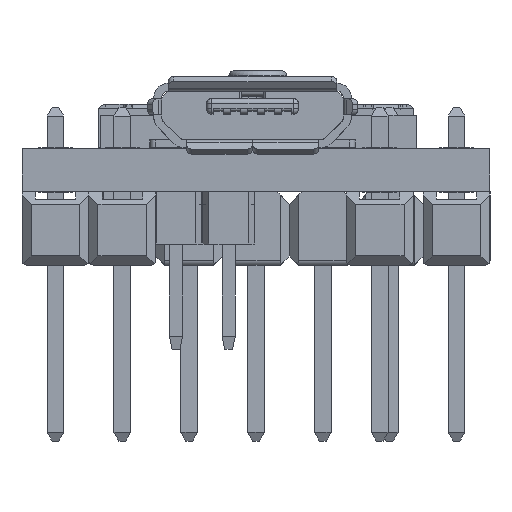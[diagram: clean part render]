
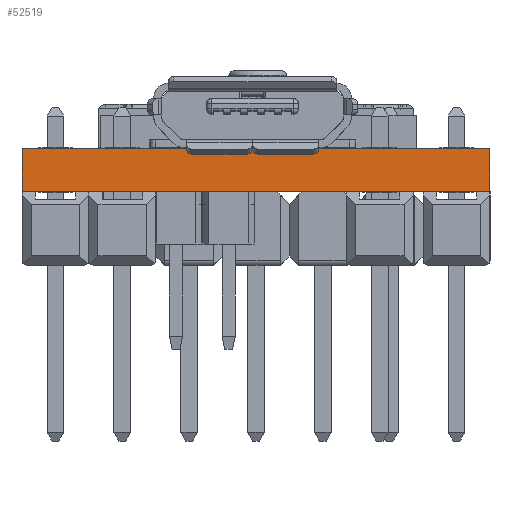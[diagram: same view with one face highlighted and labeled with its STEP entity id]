
A CAD part, left-side view. The second image highlights one B-rep face of the part: STEP entity #52519.
In plain terms, the highlighted planar face has unit normal (-1, 0, 0).
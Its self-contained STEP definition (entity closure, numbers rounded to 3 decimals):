
#3988=PLANE('',#57792);
#6890=FACE_OUTER_BOUND('',#10248,.T.);
#10248=EDGE_LOOP('',(#48248,#48249,#48250,#48251));
#15525=LINE('',#88970,#20655);
#15530=LINE('',#89100,#20660);
#15531=LINE('',#89103,#20661);
#15532=LINE('',#89104,#20662);
#20655=VECTOR('',#72282,10.);
#20660=VECTOR('',#72411,10.);
#20661=VECTOR('',#72414,10.);
#20662=VECTOR('',#72415,10.);
#27233=VERTEX_POINT('',#88963);
#27236=VERTEX_POINT('',#88968);
#27299=VERTEX_POINT('',#89098);
#27300=VERTEX_POINT('',#89102);
#34292=EDGE_CURVE('',#27236,#27233,#15525,.T.);
#34357=EDGE_CURVE('',#27236,#27299,#15530,.T.);
#34358=EDGE_CURVE('',#27300,#27299,#15531,.T.);
#34359=EDGE_CURVE('',#27233,#27300,#15532,.T.);
#48248=ORIENTED_EDGE('',*,*,#34357,.T.);
#48249=ORIENTED_EDGE('',*,*,#34358,.F.);
#48250=ORIENTED_EDGE('',*,*,#34359,.F.);
#48251=ORIENTED_EDGE('',*,*,#34292,.F.);
#52519=ADVANCED_FACE('',(#6890),#3988,.T.);
#57792=AXIS2_PLACEMENT_3D('',#89101,#72412,#72413);
#72282=DIRECTION('',(0.,1.,0.));
#72411=DIRECTION('',(0.,0.,1.));
#72412=DIRECTION('center_axis',(-1.,0.,0.));
#72413=DIRECTION('ref_axis',(0.,-1.,0.));
#72414=DIRECTION('',(0.,-1.,0.));
#72415=DIRECTION('',(0.,0.,1.));
#88963=CARTESIAN_POINT('',(-30.48,8.89,-0.815));
#88968=CARTESIAN_POINT('',(-30.48,-8.89,-0.815));
#88970=CARTESIAN_POINT('',(-30.48,-8.89,-0.815));
#89098=CARTESIAN_POINT('',(-30.48,-8.89,0.815));
#89100=CARTESIAN_POINT('',(-30.48,-8.89,0.));
#89101=CARTESIAN_POINT('Origin',(-30.48,8.89,0.));
#89102=CARTESIAN_POINT('',(-30.48,8.89,0.815));
#89103=CARTESIAN_POINT('',(-30.48,-8.89,0.815));
#89104=CARTESIAN_POINT('',(-30.48,8.89,0.));
